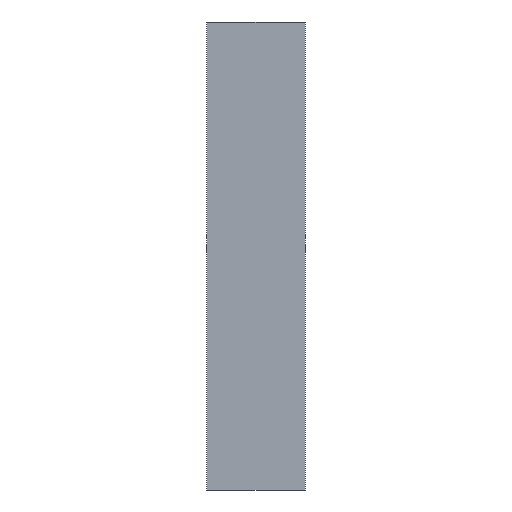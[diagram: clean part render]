
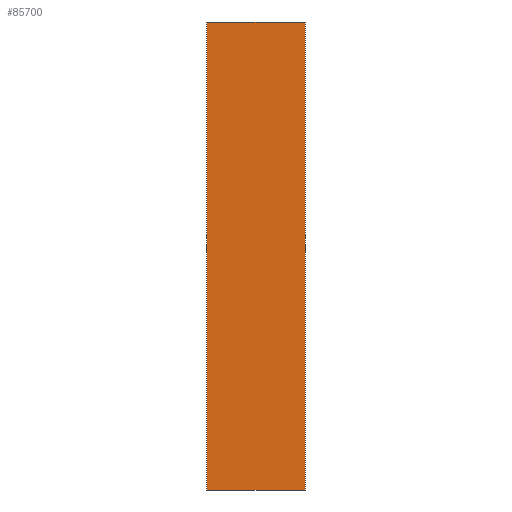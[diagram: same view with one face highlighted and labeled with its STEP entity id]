
A CAD part, front view. The second image highlights one B-rep face of the part: STEP entity #85700.
In plain terms, the highlighted planar face has unit normal (0, -1, 0).
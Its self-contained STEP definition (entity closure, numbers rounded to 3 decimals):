
#1=DIRECTION('',(1.,0.,0.));
#2=VECTOR('',#1,80.);
#3=CARTESIAN_POINT('',(-40.,80.9,69.93));
#4=LINE('',#3,#2);
#5=DIRECTION('',(0.,0.,-1.));
#6=VECTOR('',#5,380.);
#7=CARTESIAN_POINT('',(40.,80.9,69.93));
#8=LINE('',#7,#6);
#9=DIRECTION('',(-1.,0.,0.));
#10=VECTOR('',#9,80.);
#11=CARTESIAN_POINT('',(40.,80.9,-310.07));
#12=LINE('',#11,#10);
#13=DIRECTION('',(0.,0.,1.));
#14=VECTOR('',#13,380.);
#15=CARTESIAN_POINT('',(-40.,80.9,-310.07));
#16=LINE('',#15,#14);
#85583=CARTESIAN_POINT('',(-40.,80.9,69.93));
#85584=CARTESIAN_POINT('',(40.,80.9,69.93));
#85585=VERTEX_POINT('',#85583);
#85586=VERTEX_POINT('',#85584);
#85587=CARTESIAN_POINT('',(40.,80.9,-310.07));
#85588=VERTEX_POINT('',#85587);
#85589=CARTESIAN_POINT('',(-40.,80.9,-310.07));
#85590=VERTEX_POINT('',#85589);
#85685=CARTESIAN_POINT('',(0.,80.9,-0.07));
#85686=DIRECTION('',(0.,-1.,0.));
#85687=DIRECTION('',(0.,0.,1.));
#85688=AXIS2_PLACEMENT_3D('',#85685,#85686,#85687);
#85689=PLANE('',#85688);
#85691=ORIENTED_EDGE('',*,*,#85690,.T.);
#85693=ORIENTED_EDGE('',*,*,#85692,.T.);
#85695=ORIENTED_EDGE('',*,*,#85694,.T.);
#85697=ORIENTED_EDGE('',*,*,#85696,.T.);
#85698=EDGE_LOOP('',(#85691,#85693,#85695,#85697));
#85699=FACE_OUTER_BOUND('',#85698,.F.);
#85700=ADVANCED_FACE('',(#85699),#85689,.T.);
#85690=EDGE_CURVE('',#85585,#85586,#4,.T.);
#85692=EDGE_CURVE('',#85586,#85588,#8,.T.);
#85694=EDGE_CURVE('',#85588,#85590,#12,.T.);
#85696=EDGE_CURVE('',#85590,#85585,#16,.T.);
